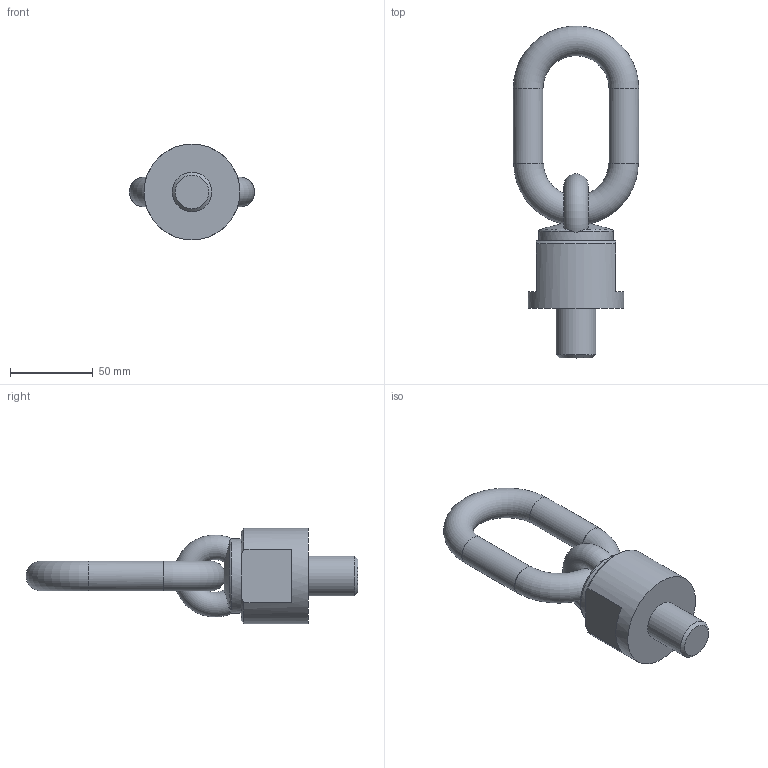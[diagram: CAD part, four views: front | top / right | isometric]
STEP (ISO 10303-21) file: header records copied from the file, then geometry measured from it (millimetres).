
FILE_DESCRIPTION( ( 'STEP AP203' ), '1' );
FILE_NAME( 'p:/temp/worker_10/temp/app_48_0201906261619044690668810e898ce_000000_00_00_000000/format_3/C8000302430.stp', '2019-06-26T14:19:07', ( '' ), ( '' ), ' ', 'PARTsolutions', ' ' );
FILE_SCHEMA( ( 'CONFIG_CONTROL_DESIGN' ) );
Length unit declared in the file: millimetre
Products named in the file (1): _C8000302430
Bounding box: 76 x 200.99 x 58 mm (x, y, z)
Volume: 209249.8 mm3; surface area: 33327.1 mm2
Topology: 1 solids, 1 shells, 27 faces, 67 edges, 42 vertices
Faces by surface type: plane 12, torus 5, cylinder 5, cone 5
Full cylindrical faces by diameter (mm): 18 x2, 24 x1, 45.12 x1, 58 x1
Entity records: 1138 total; most frequent: CARTESIAN_POINT 519, DIRECTION 118, ORIENTED_EDGE 106, AXIS2_PLACEMENT_3D 55, EDGE_CURVE 53, EDGE_LOOP 42, VERTEX_POINT 38, FACE_OUTER_BOUND 35
